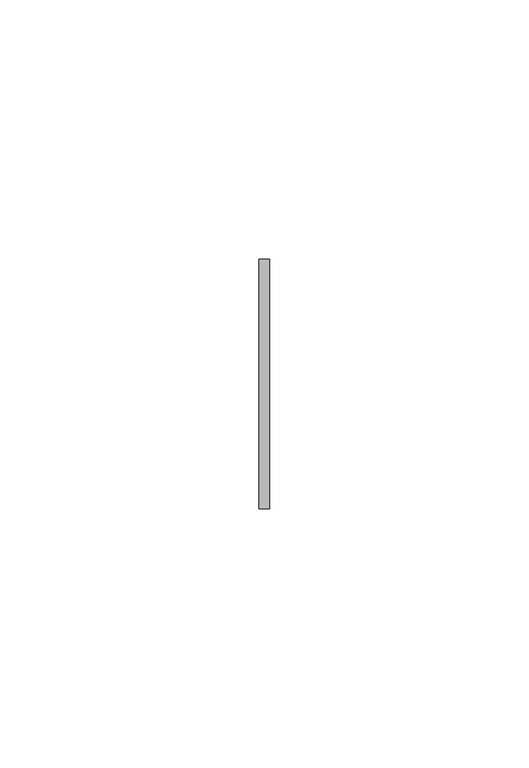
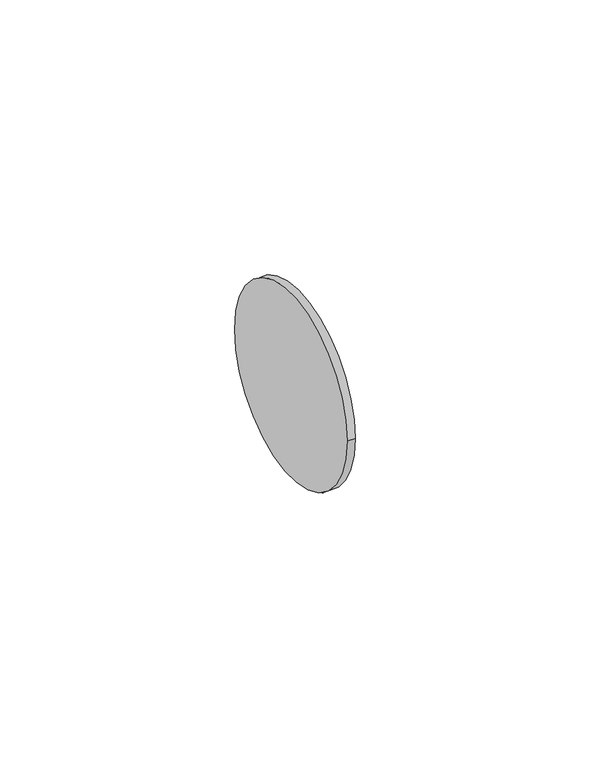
"""IFC4 building model written with IfcOpenShell, lengths in millimetres: pipe fitting geometry, PipeAccessory_GirpiHTA_CPVC_FlatGasketsForFlangeAdaptors : PipeAccessory_GirpiHTA_CPVC_FlatGasketsForFlangeAdaptors."""

from ifc_helpers import new_model, si_unit, point, frame, origin, origin_2d, place, context, project, spatial, circle_curve, trimmed, segment, composite_curve, outline, extrude, source, transform, mapped, element, save


def pipe_fitting_fd8ec18c(model_context):
    return source(origin(), model_context, "Body", "SweptSolid", [
        extrude(outline(composite_curve([segment(trimmed(circle_curve(origin_2d(), 24.0), [point((-24.0, 0.0))], [point((24.0, 0.0))], False, "CARTESIAN"), True, "CONTINUOUS"), segment(trimmed(circle_curve(origin_2d(), 24.0), [point((24.0, 0.0))], [point((-24.0, 0.0))], False, "CARTESIAN"), True, "CONTINUOUS")], self_intersect=False)), frame((-1.0, 0.0, 0.0), z_axis=(1.0, 0.0, 0.0), x_axis=(0.0, 1.0, 0.0)), (0.0, 0.0, 1.0), 2.0),
    ])


if __name__ == "__main__":
    model = new_model("IFC4")
    model_context = context("Model", 3, world=origin())
    ifc_project = project(units=[si_unit("LENGTHUNIT", "METRE", prefix="MILLI")], contexts=[model_context])
    site = spatial("IfcSite", under=ifc_project)
    building = spatial("IfcBuilding", under=site)
    placement = place(None, origin())
    pipe_fitting_shape = pipe_fitting_fd8ec18c(model_context)
    element("IfcPipeFitting", 1, ObjectType="PipeAccessory_GirpiHTA_CPVC_FlatGasketsForFlangeAdaptors : PipeAccessory_GirpiHTA_CPVC_FlatGasketsForFlangeAdaptors", at=placement, inside=building, context=model_context, shape_type="MappedRepresentation", body=[
        mapped(pipe_fitting_shape, transform((0.0, 0.0, 0.0), x_axis=(1.0, 0.0, 0.0), y_axis=(0.0, 1.0, 0.0), z_axis=(0.0, 0.0, 1.0))),
    ])
    save(model, "model.ifc")
